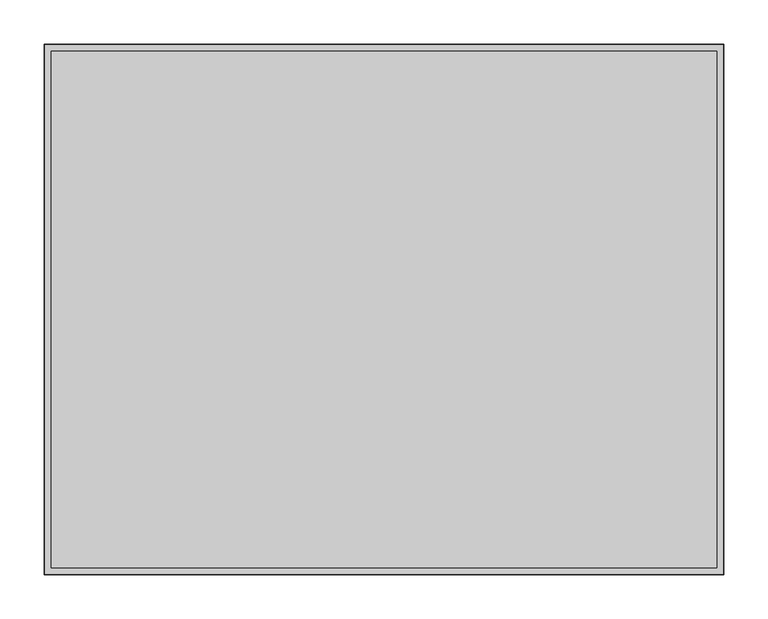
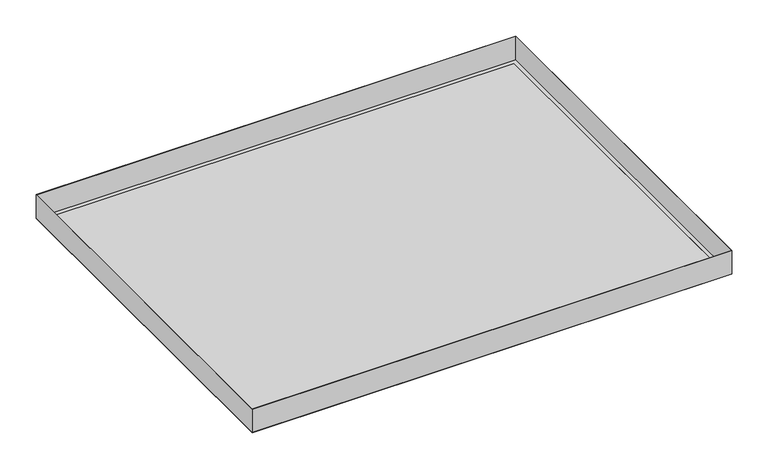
"""IFC4 building model written with IfcOpenShell, lengths in millimetres: proxy geometry, durlum_S-OM-63 : durlum_S-OM-63_panel_wall_length_cut."""

from ifc_helpers import new_model, si_unit, frame, origin, origin_with_axes, place, context, project, spatial, polyline, outline, extrude, source, transform, mapped, element, save


def generic_models_a7cc5778(model_context):
    return source(origin(), model_context, "Body", "SweptSolid", [
        extrude(outline(polyline([(383.725, 299.5), (383.725, -299.5), (-383.725, -299.5), (-383.725, 299.5), (383.725, 299.5)]), holes=[polyline([(383.125, 298.9), (-383.125, 298.9), (-383.125, -298.9), (383.125, -298.9), (383.125, 298.9)])]), frame((0.0, 0.0, 0.6), z_axis=(0.0, 0.0, 1.0), x_axis=(1.0, 0.0, 0.0)), (0.0, 0.0, 1.0), 39.4),
        extrude(outline(polyline([(375.725, 291.5), (375.725, -291.5), (-375.725, -291.5), (-375.725, 291.5), (375.725, 291.5)])), frame((0.0, 0.0, 0.6), z_axis=(0.0, 0.0, 1.0), x_axis=(1.0, 0.0, 0.0)), (0.0, 0.0, 1.0), 0.6),
        extrude(outline(polyline([(383.725, 299.5), (383.725, -299.5), (-383.725, -299.5), (-383.725, 299.5), (383.725, 299.5)]), holes=[polyline([(375.725, 291.5), (-375.725, 291.5), (-375.725, -291.5), (375.725, -291.5), (375.725, 291.5)])]), origin_with_axes(), (0.0, 0.0, 1.0), 0.6),
        extrude(outline(polyline([(375.725, 291.5), (375.725, -291.5), (-375.725, -291.5), (-375.725, 291.5), (375.725, 291.5)])), origin_with_axes(), (0.0, 0.0, 1.0), 0.6),
    ])


if __name__ == "__main__":
    model = new_model("IFC4")
    model_context = context("Model", 3, world=origin())
    ifc_project = project(units=[si_unit("LENGTHUNIT", "METRE", prefix="MILLI")], contexts=[model_context])
    site = spatial("IfcSite", under=ifc_project)
    building = spatial("IfcBuilding", under=site)
    placement = place(None, origin())
    generic_models_shape = generic_models_a7cc5778(model_context)
    element("IfcBuildingElementProxy", 1, Name="durlum_S-OM-63 : durlum_S-OM-63_panel_wall_length_cut", ObjectType="durlum_S-OM-63 : durlum_S-OM-63_panel_wall_length_cut", at=placement, inside=building, context=model_context, shape_type="MappedRepresentation", body=[
        mapped(generic_models_shape, transform((0.0, 0.0, 0.0), x_axis=(1.0, 0.0, 0.0), y_axis=(0.0, 1.0, 0.0), z_axis=(0.0, 0.0, 1.0))),
    ])
    save(model, "model.ifc")
